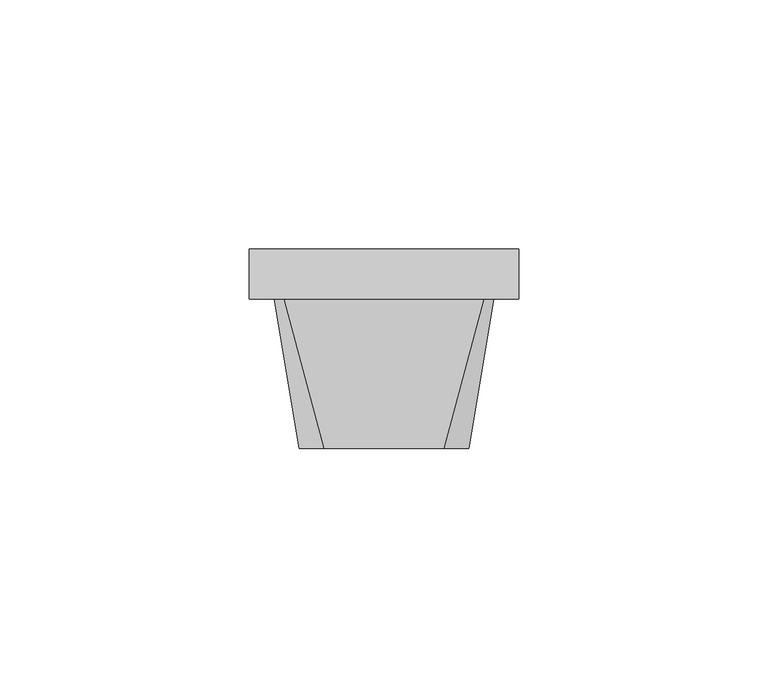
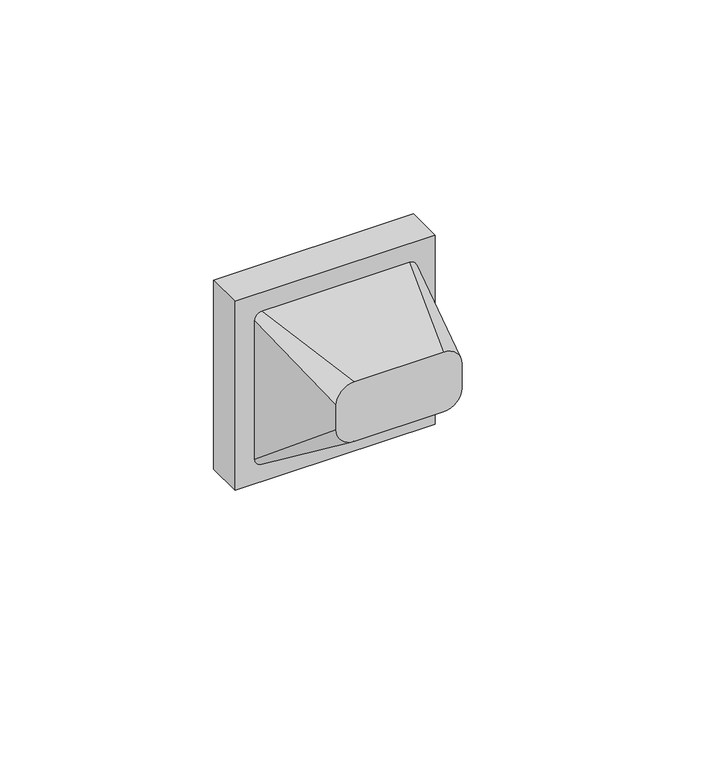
"""IFC4 building model written with IfcOpenShell, lengths in millimetres: proxy geometry, IEK_Brite_Механизм розетки мультимедийной : HDMI_РHDMI-0-БрА."""

from ifc_helpers import new_model, si_unit, frame, origin, place, context, project, spatial, polyline, circle_curve, outline, extrude, faceted_brep, source, transform, mapped, element, save
from ifc_brep_helpers import plane_surface, spline_surface, advanced_brep


def electrical_fixtures_73520d25(model_context):
    return source(origin(), model_context, "Body", "SolidModel", [
        faceted_brep([(-27.0, 10.0, 27.0), (27.0, 10.0, 27.0), (27.0, 10.0, -27.0), (-27.0, 10.0, -27.0), (7.5, 10.0, -1.7401485), (7.5, 10.0, 1.7401485), (-7.5, 10.0, 1.7401485), (-7.5, 10.0, -1.7401485), (-5.796619, 10.0, -1.7401485), (-4.3308826, 10.0, -3.2058849), (4.3308826, 10.0, -3.2058849), (5.796619, 10.0, -1.7401485), (-27.0, 0.0, 27.0), (-27.0, 0.0, -27.0), (27.0, 0.0, -27.0), (27.0, 0.0, 27.0), (7.5, 1.2588911, 1.7401485), (7.5, 1.2588911, -1.7401485), (5.796619, 1.2588911, -1.7401485), (4.3308826, 1.2588911, -3.2058849), (-4.3308826, 1.2588911, -3.2058849), (-5.796619, 1.2588911, -1.7401485), (-7.5, 1.2588911, -1.7401485), (-7.5, 1.2588911, 1.7401485)], [[[0, 1, 2, 3], [4, 5, 6, 7, 8, 9, 10, 11]], [[12, 13, 14, 15]], [[0, 3, 13, 12]], [[3, 2, 14, 13]], [[2, 1, 15, 14]], [[1, 0, 12, 15]], [[16, 17, 18, 19, 20, 21, 22, 23]], [[17, 16, 5, 4]], [[18, 17, 4, 11]], [[19, 18, 11, 10]], [[20, 19, 10, 9]], [[21, 20, 9, 8]], [[22, 21, 8, 7]], [[23, 22, 7, 6]], [[16, 23, 6, 5]]]),
        extrude(outline(polyline([(-3.1058849, -4.2894612), (-3.1058849, 4.2894612), (-1.6401485, 5.7551977), (-1.6401485, 7.4), (1.6401485, 7.4), (1.6401485, -7.4), (-1.6401485, -7.4), (-1.6401485, -5.7551977), (-3.1058849, -4.2894612)]), holes=[polyline([(-2.8058849, -4.1651972), (-1.3401485, -5.6309336), (-1.3401485, -7.1), (1.3401485, -7.1), (1.3401485, 7.1), (-1.3401485, 7.1), (-1.3401485, 5.6309336), (-2.8058849, 4.1651972), (-2.8058849, -4.1651972)])]), frame((0.0, 1.2588911, 0.0), z_axis=(0.0, 1.0, 0.0), x_axis=(0.0, 0.0, 1.0)), (0.0, 0.0, 1.0), 8.1294724),
        extrude(outline(polyline([(-5.8848007, 9.3883636), (5.8596861, 9.3883636), (5.8596861, 1.2588911), (-5.8848007, 1.2588911), (-5.8848007, 9.3883636)])), frame((0.0, 0.0, -0.5407319), z_axis=(0.0, 0.0, 1.0), x_axis=(1.0, 0.0, 0.0)), (0.0, 0.0, 1.0), 0.9188569),
        advanced_brep(
        [(-12.0, -30.0, 17.0), (-17.0, -30.0, 12.0), (-17.0, -30.0, 5.0), (-12.0, -30.0, 0.0), (12.0, -30.0, 0.0), (17.0, -30.0, 5.0), (17.0, -30.0, 12.0), (12.0, -30.0, 17.0), (-20.0, 0.0, 22.0), (20.0, 0.0, 22.0), (22.0, 0.0, 20.0), (22.0, 0.0, -20.0), (20.0, 0.0, -22.0), (-20.0, 0.0, -22.0), (-22.0, 0.0, -20.0), (-22.0, 0.0, 20.0)],
        [
            (0, 1, circle_curve(frame((-12.0, -30.0, 12.0), z_axis=(0.0, -1.0, 0.0), x_axis=(1.0, 0.0, 0.0)), 5.0)),
            (1, 2),
            (2, 3, circle_curve(frame((-12.0, -30.0, 5.0), z_axis=(0.0, -1.0, 0.0), x_axis=(1.0, 0.0, 0.0)), 5.0)),
            (3, 4),
            (4, 5, circle_curve(frame((12.0, -30.0, 5.0), z_axis=(0.0, -1.0, 0.0), x_axis=(1.0, 0.0, 0.0)), 5.0)),
            (5, 6),
            (6, 7, circle_curve(frame((12.0, -30.0, 12.0), z_axis=(0.0, -1.0, 0.0), x_axis=(1.0, 0.0, 0.0)), 5.0)),
            (7, 0),
            (8, 9),
            (9, 10, circle_curve(frame((20.0, 0.0, 20.0), z_axis=(0.0, 1.0, 0.0), x_axis=(1.0, 0.0, 0.0)), 2.0)),
            (10, 11),
            (11, 12, circle_curve(frame((20.0, 0.0, -20.0), z_axis=(0.0, 1.0, 0.0), x_axis=(1.0, 0.0, 0.0)), 2.0)),
            (12, 13),
            (13, 14, circle_curve(frame((-20.0, 0.0, -20.0), z_axis=(0.0, 1.0, 0.0), x_axis=(1.0, 0.0, 0.0)), 2.0)),
            (14, 15),
            (15, 8, circle_curve(frame((-20.0, 0.0, 20.0), z_axis=(0.0, 1.0, 0.0), x_axis=(1.0, 0.0, 0.0)), 2.0)),
            (8, 0),
            (7, 9),
            (6, 10),
            (5, 11),
            (4, 12),
            (3, 13),
            (2, 14),
            (1, 15),
        ],
        [
            plane_surface(frame((0.0, -30.0, 8.5), z_axis=(0.0, -1.0, 0.0), x_axis=(-1.0, 0.0, 0.0))),
            plane_surface(frame((0.0, 0.0, 0.0), z_axis=(0.0, 1.0, 0.0), x_axis=(-1.0, 0.0, 0.0))),
            plane_surface(frame((0.0, 0.0, 22.0), z_axis=(0.0, -0.16439898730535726, 0.9863939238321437), x_axis=(-1.0, 0.0, 0.0))),
            spline_surface(2, 1, [[(22.0, 0.0, 20.0), (17.0, -30.0, 12.0)], [(22.0, 0.0, 22.0), (17.0, -30.0, 17.0)], [(20.0, 0.0, 22.0), (12.0, -30.0, 17.0)]], [3, 3], [2, 2], [0.0, 1.0], [0.0, 1.0], weights=[[1.0, 1.0], [0.7071067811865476, 0.7071067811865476], [1.0, 1.0]]),
            plane_surface(frame((22.0, 0.0, 0.0), z_axis=(0.9863939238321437, -0.1643989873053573, 0.0), x_axis=(0.0, 0.0, 1.0))),
            spline_surface(2, 1, [[(20.0, 0.0, -22.0), (12.0, -30.0, 0.0)], [(22.0, 0.0, -22.0), (17.0, -30.0, 0.0)], [(22.0, 0.0, -20.0), (17.0, -30.0, 5.0)]], [3, 3], [2, 2], [0.0, 1.0], [0.0, 1.0], weights=[[1.0, 1.0], [0.7071067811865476, 0.7071067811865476], [1.0, 1.0]]),
            plane_surface(frame((0.0, 0.0, -22.0), z_axis=(0.0, -0.591363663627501, -0.8064049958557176), x_axis=(1.0, 0.0, 0.0))),
            spline_surface(2, 1, [[(-22.0, 0.0, -20.0), (-17.0, -30.0, 5.0)], [(-22.0, 0.0, -22.0), (-17.0, -30.0, 0.0)], [(-20.0, 0.0, -22.0), (-12.0, -30.0, 0.0)]], [3, 3], [2, 2], [0.0, 1.0], [0.0, 1.0], weights=[[1.0, 1.0], [0.7071067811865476, 0.7071067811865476], [1.0, 1.0]]),
            plane_surface(frame((-22.0, 0.0, 0.0), z_axis=(-0.9863939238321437, -0.1643989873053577, 0.0), x_axis=(0.0, 0.0, -1.0))),
            spline_surface(2, 1, [[(-20.0, 0.0, 22.0), (-12.0, -30.0, 17.0)], [(-22.0, 0.0, 22.0), (-17.0, -30.0, 17.0)], [(-22.0, 0.0, 20.0), (-17.0, -30.0, 12.0)]], [3, 3], [2, 2], [0.0, 1.0], [0.0, 1.0], weights=[[1.0, 1.0], [0.7071067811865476, 0.7071067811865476], [1.0, 1.0]]),
        ],
        [
            (0, [[1, 2, 3, 4, 5, 6, 7, 8]]),
            (1, [[9, 10, 11, 12, 13, 14, 15, 16]]),
            (2, [[-9, 17, -8, 18]]),
            (3, [[-10, -18, -7, 19]]),
            (4, [[-11, -19, -6, 20]]),
            (5, [[-12, -20, -5, 21]]),
            (6, [[-13, -21, -4, 22]]),
            (7, [[-14, -22, -3, 23]]),
            (8, [[-15, -23, -2, 24]]),
            (9, [[-16, -24, -1, -17]]),
        ],
    ),
    ])


if __name__ == "__main__":
    model = new_model("IFC4")
    model_context = context("Model", 3, world=origin())
    ifc_project = project(units=[si_unit("LENGTHUNIT", "METRE", prefix="MILLI")], contexts=[model_context])
    site = spatial("IfcSite", under=ifc_project)
    building = spatial("IfcBuilding", under=site)
    placement = place(None, origin())
    electrical_fixtures_shape = electrical_fixtures_73520d25(model_context)
    element("IfcBuildingElementProxy", 1, Name="IEK_Brite_Механизм розетки мультимедийной : HDMI_РHDMI-0-БрА", ObjectType="IEK_Brite_Механизм розетки мультимедийной : HDMI_РHDMI-0-БрА", at=placement, inside=building, context=model_context, shape_type="MappedRepresentation", body=[
        mapped(electrical_fixtures_shape, transform((0.0, 0.0, 0.0), x_axis=(1.0, 0.0, 0.0), y_axis=(0.0, 1.0, 0.0), z_axis=(0.0, 0.0, 1.0))),
    ])
    save(model, "model.ifc")
